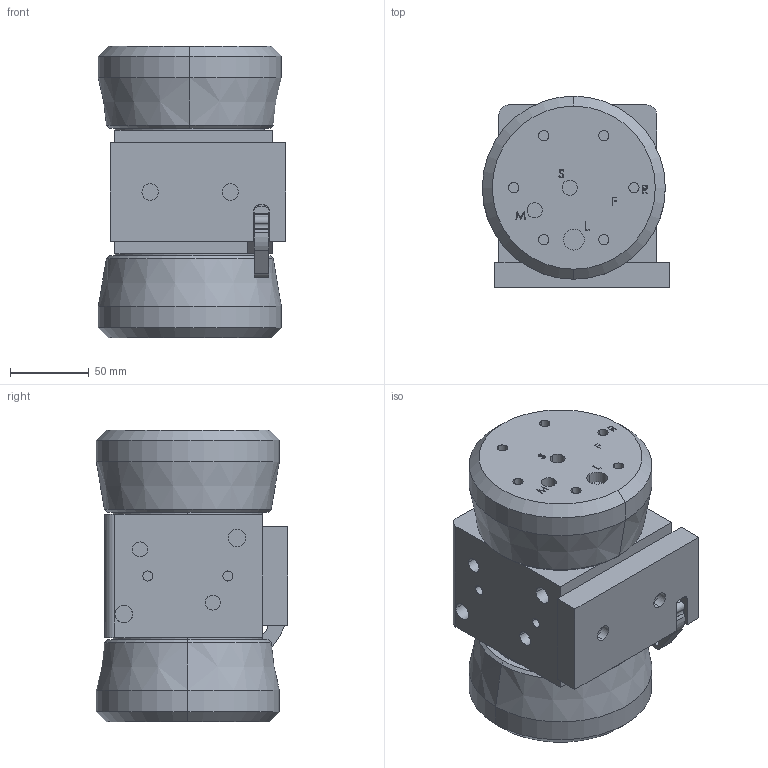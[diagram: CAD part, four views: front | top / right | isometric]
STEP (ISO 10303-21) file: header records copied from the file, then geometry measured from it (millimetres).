
FILE_DESCRIPTION (( 'STEP AP214' ), '1' );
FILE_NAME ('psh030-no-shuttle.STEP', '2012-11-21T21:34:42', ( '' ), ( '' ), 'SwSTEP 2.0', 'SolidWorks 2012', '' );
FILE_SCHEMA (( 'AUTOMOTIVE_DESIGN' ));
Length unit declared in the file: inch
Products named in the file (1): psh030-no-shuttle
Bounding box: 118.85 x 121.36 x 184.96 mm (x, y, z)
Volume: 1888450.2 mm3; surface area: 119153.5 mm2
Topology: 1 solids, 1 shells, 710 faces, 1830 edges, 1210 vertices
Faces by surface type: plane 432, bspline 147, cylinder 117, cone 14
Entity records: 30059 total; most frequent: CARTESIAN_POINT 12387, ORIENTED_EDGE 3660, DIRECTION 2920, EDGE_CURVE 1830, LINE 1274, VECTOR 1274, VERTEX_POINT 1210, AXIS2_PLACEMENT_3D 823
